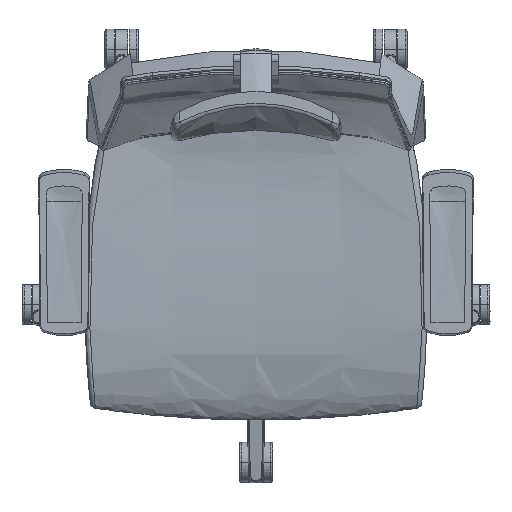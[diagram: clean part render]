
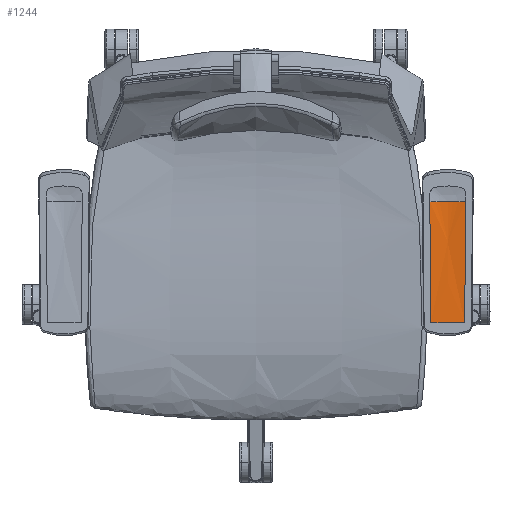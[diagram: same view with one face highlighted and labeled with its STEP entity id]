
A CAD part, top view. The second image highlights one B-rep face of the part: STEP entity #1244.
In plain terms, the highlighted free-form (B-spline) face has degree [3, 2] with [4, 3] control points.
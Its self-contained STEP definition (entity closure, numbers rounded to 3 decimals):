
#538=B_SPLINE_CURVE_WITH_KNOTS('',1,(#13789,#13790),.UNSPECIFIED.,.F.,.F.,
(2,2),(0.,50.276),.UNSPECIFIED.);
#1244=ADVANCED_FACE('',(#1747),#7450,.T.);
#1747=FACE_OUTER_BOUND('',#2250,.T.);
#2250=EDGE_LOOP('',(#3331,#3332,#3333,#3334,#3335));
#3331=ORIENTED_EDGE('',*,*,#5188,.T.);
#3332=ORIENTED_EDGE('',*,*,#5186,.T.);
#3333=ORIENTED_EDGE('',*,*,#5187,.T.);
#3334=ORIENTED_EDGE('',*,*,#5189,.T.);
#3335=ORIENTED_EDGE('',*,*,#5205,.T.);
#5186=EDGE_CURVE('',#6853,#6854,#6209,.T.);
#5187=EDGE_CURVE('',#6854,#6852,#6210,.T.);
#5188=EDGE_CURVE('',#6855,#6853,#6211,.T.);
#5189=EDGE_CURVE('',#6852,#6856,#6212,.T.);
#5205=EDGE_CURVE('',#6856,#6855,#538,.T.);
#6209=(
BOUNDED_CURVE()
B_SPLINE_CURVE(2,(#13714,#13715,#13716),.UNSPECIFIED.,.F.,.F.)
B_SPLINE_CURVE_WITH_KNOTS((3,3),(0.,26.864),.UNSPECIFIED.)
CURVE()
GEOMETRIC_REPRESENTATION_ITEM()
RATIONAL_B_SPLINE_CURVE((1.,0.994,1.))
REPRESENTATION_ITEM('')
);
#6210=(
BOUNDED_CURVE()
B_SPLINE_CURVE(2,(#13717,#13718,#13719),.UNSPECIFIED.,.F.,.F.)
B_SPLINE_CURVE_WITH_KNOTS((3,3),(-26.864,0.),.UNSPECIFIED.)
CURVE()
GEOMETRIC_REPRESENTATION_ITEM()
RATIONAL_B_SPLINE_CURVE((1.,0.994,1.))
REPRESENTATION_ITEM('')
);
#6211=(
BOUNDED_CURVE()
B_SPLINE_CURVE(3,(#13720,#13721,#13722,#13723),.UNSPECIFIED.,.F.,.F.)
B_SPLINE_CURVE_WITH_KNOTS((4,4),(0.,180.167),.UNSPECIFIED.)
CURVE()
GEOMETRIC_REPRESENTATION_ITEM()
RATIONAL_B_SPLINE_CURVE((1.,1.,1.,1.))
REPRESENTATION_ITEM('')
);
#6212=(
BOUNDED_CURVE()
B_SPLINE_CURVE(3,(#13724,#13725,#13726,#13727),.UNSPECIFIED.,.F.,.F.)
B_SPLINE_CURVE_WITH_KNOTS((4,4),(-180.167,0.),.UNSPECIFIED.)
CURVE()
GEOMETRIC_REPRESENTATION_ITEM()
RATIONAL_B_SPLINE_CURVE((1.,1.,1.,1.))
REPRESENTATION_ITEM('')
);
#6852=VERTEX_POINT('',#13686);
#6853=VERTEX_POINT('',#13687);
#6854=VERTEX_POINT('',#13688);
#6855=VERTEX_POINT('',#13689);
#6856=VERTEX_POINT('',#13690);
#7450=(
BOUNDED_SURFACE()
B_SPLINE_SURFACE(3,2,((#13606,#13607,#13608),(#13609,#13610,#13611),(#13612,
#13613,#13614),(#13615,#13616,#13617)),.UNSPECIFIED.,.F.,.F.,.F.)
B_SPLINE_SURFACE_WITH_KNOTS((4,4),(3,3),(0.,180.167),(-53.728,
0.),.UNSPECIFIED.)
GEOMETRIC_REPRESENTATION_ITEM()
RATIONAL_B_SPLINE_SURFACE(((1.,0.975,1.),(1.,0.975,
1.),(1.,0.975,1.),(1.,0.975,1.)))
REPRESENTATION_ITEM('')
SURFACE()
);
#13606=CARTESIAN_POINT('',(309.828,-114.598,720.57));
#13607=CARTESIAN_POINT('',(284.691,-114.598,720.57));
#13608=CARTESIAN_POINT('',(259.553,-114.598,720.57));
#13609=CARTESIAN_POINT('',(310.329,-54.569,718.85));
#13610=CARTESIAN_POINT('',(284.691,-54.567,718.9));
#13611=CARTESIAN_POINT('',(259.052,-54.569,718.85));
#13612=CARTESIAN_POINT('',(310.829,5.46,717.129));
#13613=CARTESIAN_POINT('',(284.691,5.291,711.219));
#13614=CARTESIAN_POINT('',(258.552,5.46,717.129));
#13615=CARTESIAN_POINT('',(311.33,65.489,715.409));
#13616=CARTESIAN_POINT('',(284.691,65.315,709.334));
#13617=CARTESIAN_POINT('',(258.051,65.489,715.409));
#13686=CARTESIAN_POINT('',(258.051,65.489,715.409));
#13687=CARTESIAN_POINT('',(311.33,65.489,715.409));
#13688=CARTESIAN_POINT('',(284.691,65.403,712.41));
#13689=CARTESIAN_POINT('',(309.828,-114.598,720.57));
#13690=CARTESIAN_POINT('',(259.553,-114.598,720.57));
#13714=CARTESIAN_POINT('',(311.33,65.489,715.409));
#13715=CARTESIAN_POINT('',(298.179,65.403,712.41));
#13716=CARTESIAN_POINT('',(284.691,65.403,712.41));
#13717=CARTESIAN_POINT('',(284.691,65.403,712.41));
#13718=CARTESIAN_POINT('',(271.202,65.403,712.41));
#13719=CARTESIAN_POINT('',(258.051,65.489,715.409));
#13720=CARTESIAN_POINT('',(309.828,-114.598,720.57));
#13721=CARTESIAN_POINT('',(310.329,-54.569,718.85));
#13722=CARTESIAN_POINT('',(310.829,5.46,717.129));
#13723=CARTESIAN_POINT('',(311.33,65.489,715.409));
#13724=CARTESIAN_POINT('',(258.051,65.489,715.409));
#13725=CARTESIAN_POINT('',(258.552,5.46,717.129));
#13726=CARTESIAN_POINT('',(259.052,-54.569,718.85));
#13727=CARTESIAN_POINT('',(259.553,-114.598,720.57));
#13789=CARTESIAN_POINT('',(259.553,-114.598,720.57));
#13790=CARTESIAN_POINT('',(309.828,-114.598,720.57));
